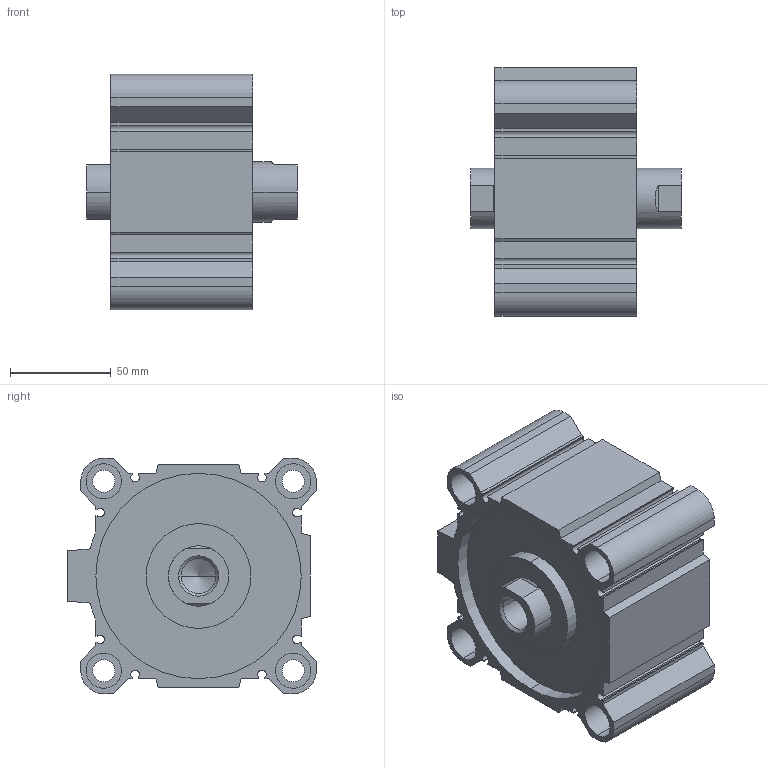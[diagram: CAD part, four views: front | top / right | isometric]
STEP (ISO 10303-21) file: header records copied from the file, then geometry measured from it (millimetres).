
FILE_DESCRIPTION (( 'STEP AP203' ), '1' );
FILE_NAME ('CCMB100-10F-P.STEP', '2020-08-05T11:52:38', ( '' ), ( '' ), 'SwSTEP 2.0', 'SolidWorks 2019', '' );
FILE_SCHEMA (( 'CONFIG_CONTROL_DESIGN' ));
Length unit declared in the file: millimetre
Products named in the file (1): CCMB100-10F-P
Bounding box: 104.5 x 123.5 x 117 mm (x, y, z)
Volume: 666500.4 mm3; surface area: 151504.6 mm2
Topology: 2 solids, 2 shells, 178 faces, 456 edges, 298 vertices
Faces by surface type: plane 90, cylinder 76, cone 12
Entity records: 5495 total; most frequent: DIRECTION 970, CARTESIAN_POINT 941, ORIENTED_EDGE 904, EDGE_CURVE 452, AXIS2_PLACEMENT_3D 343, VERTEX_POINT 298, VECTOR 284, LINE 284
